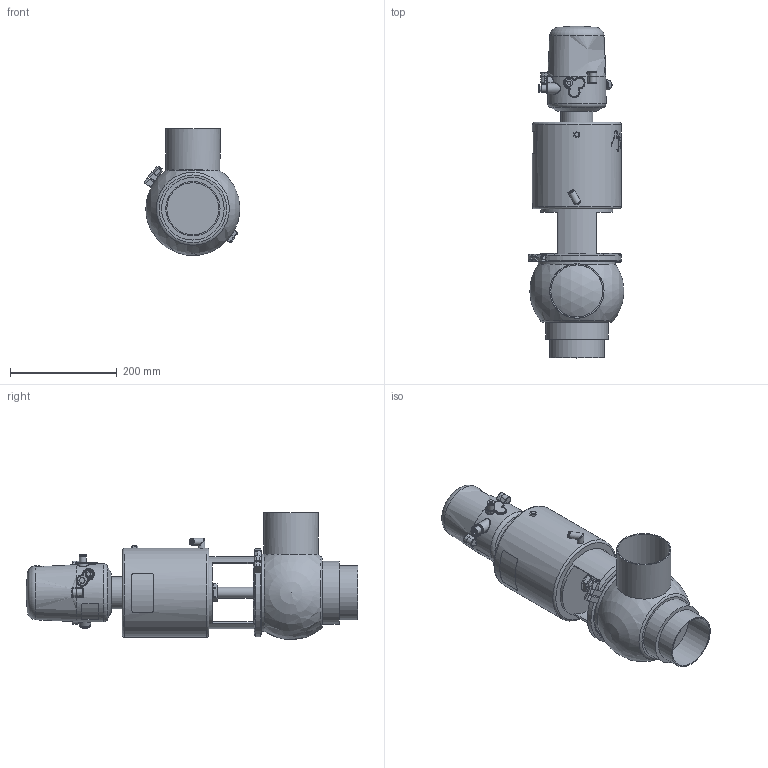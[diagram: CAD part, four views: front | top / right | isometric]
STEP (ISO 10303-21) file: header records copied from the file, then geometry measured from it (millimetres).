
FILE_DESCRIPTION (( 'STEP AP214' ), '1' );
FILE_NAME ('INNOVA N L W OD 4 T4 AS NC & C-TOP S_10.240.16.0055.STEP', '2024-08-06T08:03:26', ( '' ), ( '' ), 'SwSTEP 2.0', 'SolidWorks 2023', '' );
FILE_SCHEMA (( 'AUTOMOTIVE_DESIGN' ));
Length unit declared in the file: millimetre
Products named in the file (7): 10.426.15.0001_C-TOP S - 1 EV; 10.240.15.0010_DN 100; INNOVA N L W OD 4 T4 AS NC & C-TOP S_10.240.16.0055; 10.240.15.0002_OD 4"; 10.240.15.0001_DN 100; 10.240.15.0017_Estàndard; 10.240.15.0014_T4 AS P0
Assembly tree (6 placements, depth 2):
  INNOVA N L W OD 4 T4 AS NC & C-TOP S_10.240.16.0055
    10.240.15.0002_OD 4"
    10.240.15.0010_DN 100
    10.240.15.0014_T4 AS P0
    10.240.15.0017_Estàndard
    10.426.15.0001_C-TOP S - 1 EV
    10.240.15.0001_DN 100
Bounding box: 179.26 x 620.5 x 237.34 mm (x, y, z)
Volume: 8074166.9 mm3; surface area: 532697.2 mm2
Topology: 6 solids, 6 shells, 1099 faces, 2643 edges, 1763 vertices
Faces by surface type: plane 375, cylinder 330, cone 191, bspline 160, torus 37, sphere 6
Full cylindrical faces by diameter (mm): 0.371 x17, 0.512 x16, 0.658 x16, 0.795 x16, 0.94 x15, 1.098 x15, 1.241 x13, 1.382 x13, 1.523 x11, 1.669 x10, 2.201 x1, 4 x2, 5.5 x2, 6 x2, 6.15 x1, 8 x4, 8.5 x1, 10 x1, 10.5 x1, 11 x2, 12.5 x3, 13 x2, 13.5 x2, 16 x1, 17 x3, 20 x3, 20.5 x1, 22 x2, 31 x1, 34.5 x3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
Entity records: 57755 total; most frequent: CARTESIAN_POINT 27810, ORIENTED_EDGE 4486, DIRECTION 3593, EDGE_CURVE 2243, VERTEX_POINT 1593, EDGE_LOOP 1546, AXIS2_PLACEMENT_3D 1468, FACE_OUTER_BOUND 1311
